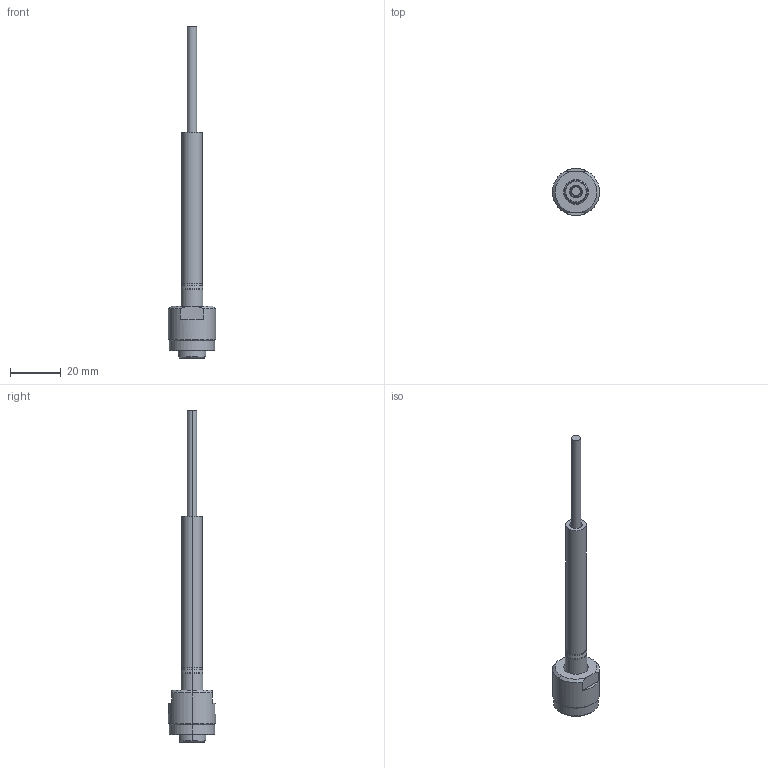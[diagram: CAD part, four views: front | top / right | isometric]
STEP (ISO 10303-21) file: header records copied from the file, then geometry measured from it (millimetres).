
FILE_DESCRIPTION (( 'STEP AP203' ), '1' );
FILE_NAME ('COB-121X Cable 1 Pin.STEP', '2023-12-01T17:52:56', ( '' ), ( '' ), 'SwSTEP 2.0', 'SolidWorks 2022', '' );
FILE_SCHEMA (( 'CONFIG_CONTROL_DESIGN' ));
Length unit declared in the file: millimetre
Products named in the file (1): COB-121X Cable 1 Pin
Bounding box: 18.5 x 18.5 x 130.5 mm (x, y, z)
Volume: 7009.7 mm3; surface area: 7803.8 mm2
Topology: 2 solids, 2 shells, 124 faces, 274 edges, 166 vertices
Faces by surface type: cylinder 52, cone 24, plane 23, torus 22, bspline 3
Entity records: 4664 total; most frequent: CARTESIAN_POINT 1860, DIRECTION 618, ORIENTED_EDGE 548, EDGE_CURVE 274, AXIS2_PLACEMENT_3D 267, VERTEX_POINT 166, CIRCLE 145, EDGE_LOOP 138
